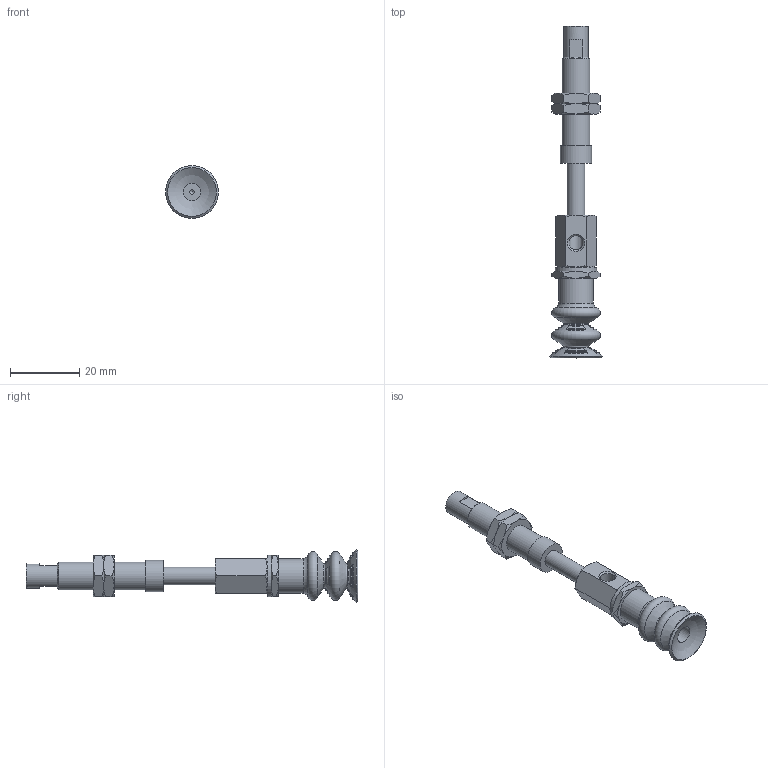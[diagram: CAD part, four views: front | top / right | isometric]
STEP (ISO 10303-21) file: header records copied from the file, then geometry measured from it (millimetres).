
FILE_DESCRIPTION(('STEP AP203'),'1');
FILE_NAME('.stp','2025-04-03T06:58:51',(' '),(' '),'Spatial InterOp 3D',' ',' ');
FILE_SCHEMA(('CONFIG_CONTROL_DESIGN'));
Length unit declared in the file: millimetre
Products named in the file (7): BNABPCYS-15-15-※; Adapter_napc-15-T; Connector_s-15-15; Nut napc_s-15-15; NAPCTS-15-15-FBODY; NAPCTS-15-15-MBODY; BPCG-15-※
Assembly tree (7 placements, depth 2):
  BNABPCYS-15-15-※
    Adapter_napc-15-T
    Connector_s-15-15
    Nut napc_s-15-15  x2
    NAPCTS-15-15-FBODY
    NAPCTS-15-15-MBODY
    BPCG-15-※
Bounding box: 15.2 x 95.7 x 15.2 mm (x, y, z)
Volume: 6075.5 mm3; surface area: 6226.7 mm2
Topology: 7 solids, 7 shells, 237 faces, 700 edges, 450 vertices
Faces by surface type: cone 68, plane 58, sphere 58, torus 34, cylinder 19
Full cylindrical faces by diameter (mm): 1.25 x1, 4.134 x3, 5 x8, 7 x1, 7.188 x2, 8 x1, 9 x1, 10 x1, 12 x1
Entity records: 6763 total; most frequent: CARTESIAN_POINT 1930, DIRECTION 980, ORIENTED_EDGE 830, AXIS2_PLACEMENT_3D 467, EDGE_CURVE 415, EDGE_LOOP 302, VERTEX_POINT 292, CIRCLE 243
